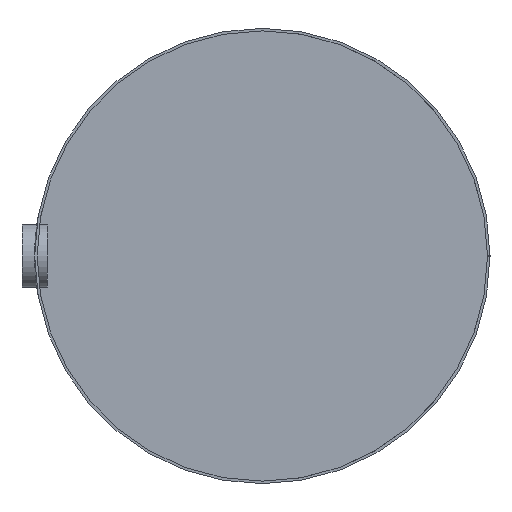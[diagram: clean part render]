
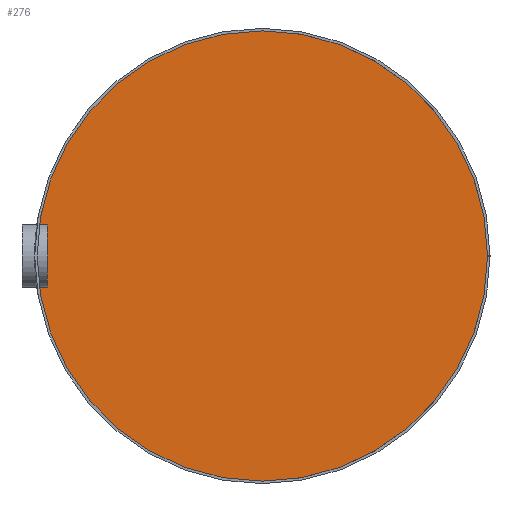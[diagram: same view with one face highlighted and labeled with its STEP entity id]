
A CAD part, front view. The second image highlights one B-rep face of the part: STEP entity #276.
In plain terms, the highlighted planar face has unit normal (0, -1, 0) as drawn and (0, 0, 1) by its records, which use the part's own axes.
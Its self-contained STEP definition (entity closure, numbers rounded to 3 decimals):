
#3 = FACE_OUTER_BOUND ( 'NONE', #742, .T. ) ;
#200 = CARTESIAN_POINT ( 'NONE',  ( 178., 0., 2. ) ) ;
#206 = AXIS2_PLACEMENT_3D ( 'NONE', #1173, #272, #480 ) ;
#250 = AXIS2_PLACEMENT_3D ( 'NONE', #303, #1209, #410 ) ;
#272 = DIRECTION ( 'NONE',  ( 0., 0., 1. ) ) ;
#276 = ADVANCED_FACE ( 'NONE', ( #3 ), #996, .T. ) ;
#303 = CARTESIAN_POINT ( 'NONE',  ( 0., 0., 2. ) ) ;
#306 = CARTESIAN_POINT ( 'NONE',  ( -178., 0., 2. ) ) ;
#410 = DIRECTION ( 'NONE',  ( 1., 0., 0. ) ) ;
#480 = DIRECTION ( 'NONE',  ( 1., 0., 0. ) ) ;
#575 = CARTESIAN_POINT ( 'NONE',  ( 0., 0., 2. ) ) ;
#668 = AXIS2_PLACEMENT_3D ( 'NONE', #575, #870, #1267 ) ;
#723 = CIRCLE ( 'NONE', #668, 178. ) ;
#742 = EDGE_LOOP ( 'NONE', ( #1249, #1024 ) ) ;
#870 = DIRECTION ( 'NONE',  ( 0., 0., 1. ) ) ;
#958 = VERTEX_POINT ( 'NONE', #200 ) ;
#996 = PLANE ( 'NONE',  #250 ) ;
#999 = CIRCLE ( 'NONE', #206, 178. ) ;
#1024 = ORIENTED_EDGE ( 'NONE', *, *, #1245, .T. ) ;
#1048 = VERTEX_POINT ( 'NONE', #306 ) ;
#1173 = CARTESIAN_POINT ( 'NONE',  ( 0., 0., 2. ) ) ;
#1200 = EDGE_CURVE ( 'NONE', #1048, #958, #723, .T. ) ;
#1209 = DIRECTION ( 'NONE',  ( 0., 0., 1. ) ) ;
#1245 = EDGE_CURVE ( 'NONE', #958, #1048, #999, .T. ) ;
#1249 = ORIENTED_EDGE ( 'NONE', *, *, #1200, .T. ) ;
#1267 = DIRECTION ( 'NONE',  ( 1., 0., 0. ) ) ;
